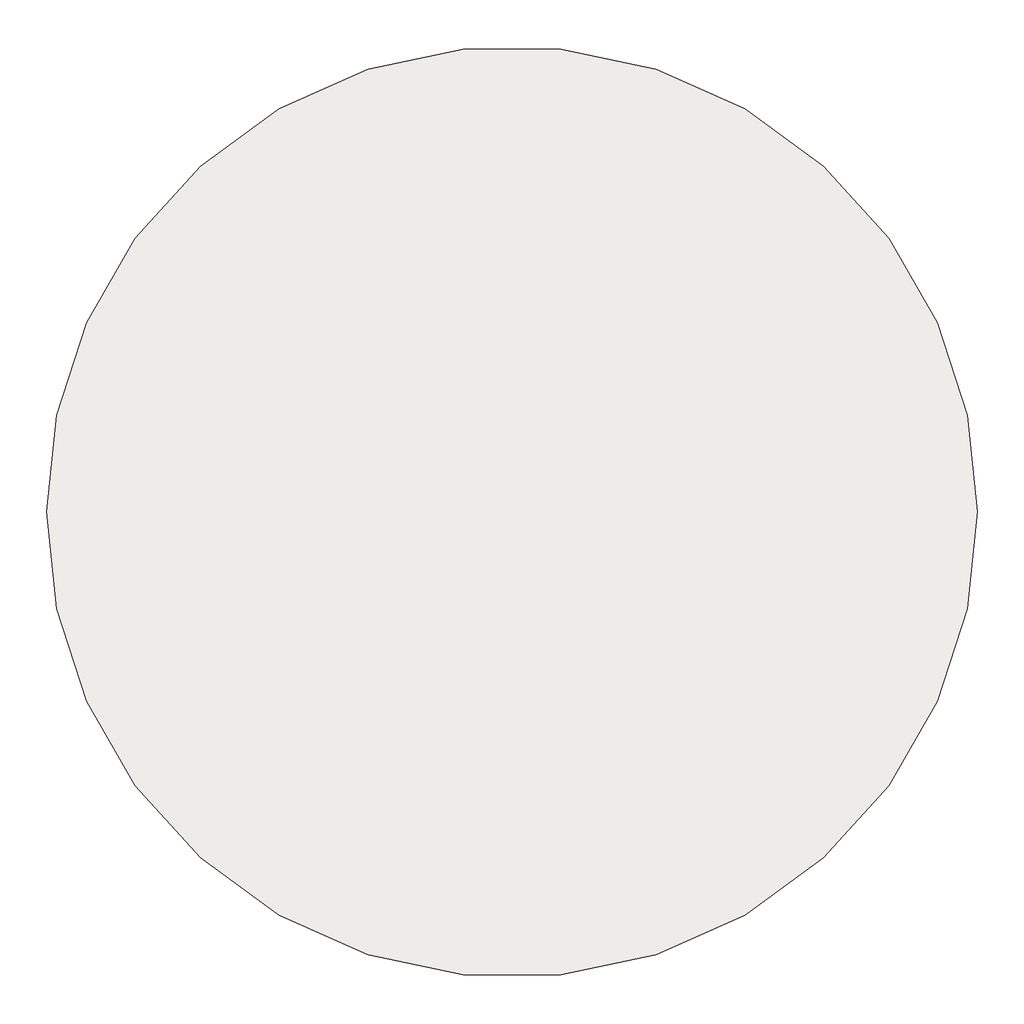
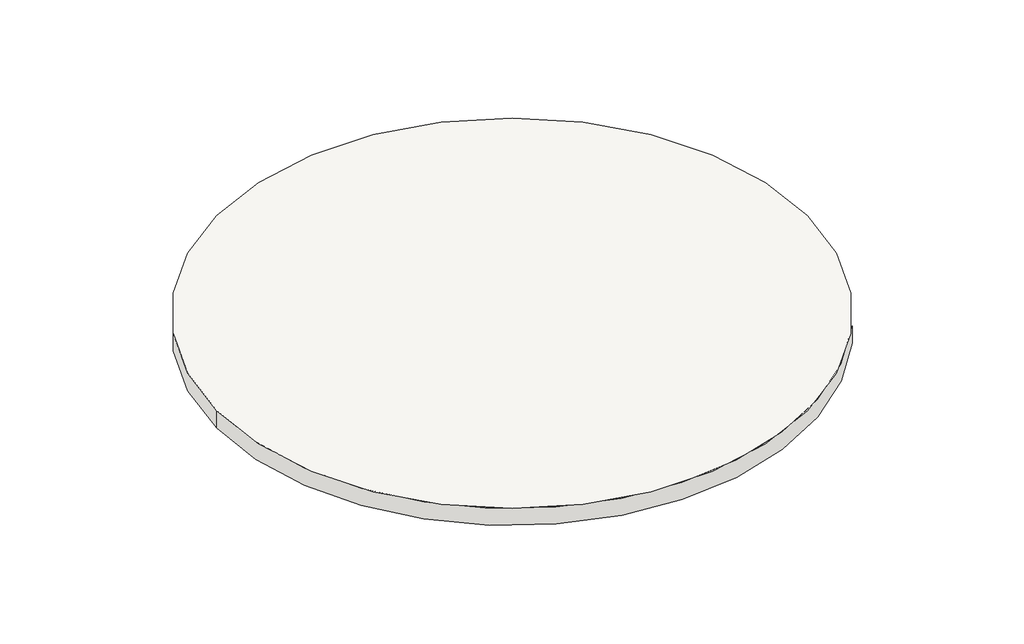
# One storey: 1 roof.
"""IFC4 building model written with IfcOpenShell, lengths in millimetres."""

from ifc_helpers import new_model, si_unit, point, frame, frame_2d, origin, place, context, project, spatial, circle_curve, trimmed, segment, composite_curve, outline, extrude, element, save

model = new_model("IFC4")

# Units and contexts
model_context = context("Model", 3, world=origin())
ifc_project = project(units=[si_unit("LENGTHUNIT", "METRE", prefix="MILLI")], contexts=[model_context])

# Site, building, storey
site = spatial("IfcSite", under=ifc_project)
building = spatial("IfcBuilding", under=site)
storey = spatial("IfcBuildingStorey", under=building, Name="标高 4", Elevation=17000.0)

# Roof
placement = place(None, origin())
element("IfcRoof", 1, ObjectType="常规 - 400mm", at=placement, inside=storey, context=model_context, shape_type="SweptSolid", body=[
    extrude(outline(composite_curve([segment(trimmed(circle_curve(frame_2d((-363.8701599, 497.2359449)), 6500.0), [point((-6863.8701599, 497.2359449))], [point((6136.1298401, 497.2359449))], False, "CARTESIAN"), True, "CONTINUOUS"), segment(trimmed(circle_curve(frame_2d((-363.8701599, 497.2359449)), 6500.0), [point((6136.1298401, 497.2359449))], [point((-6863.8701599, 497.2359449))], False, "CARTESIAN"), True, "CONTINUOUS")], self_intersect=False)), frame((0.0, 0.0, 17000.0), z_axis=(0.0, 0.0, 1.0), x_axis=(1.0, 0.0, 0.0)), (0.0, 0.0, 1.0), 400.0),
])

save(model, "model.ifc")
